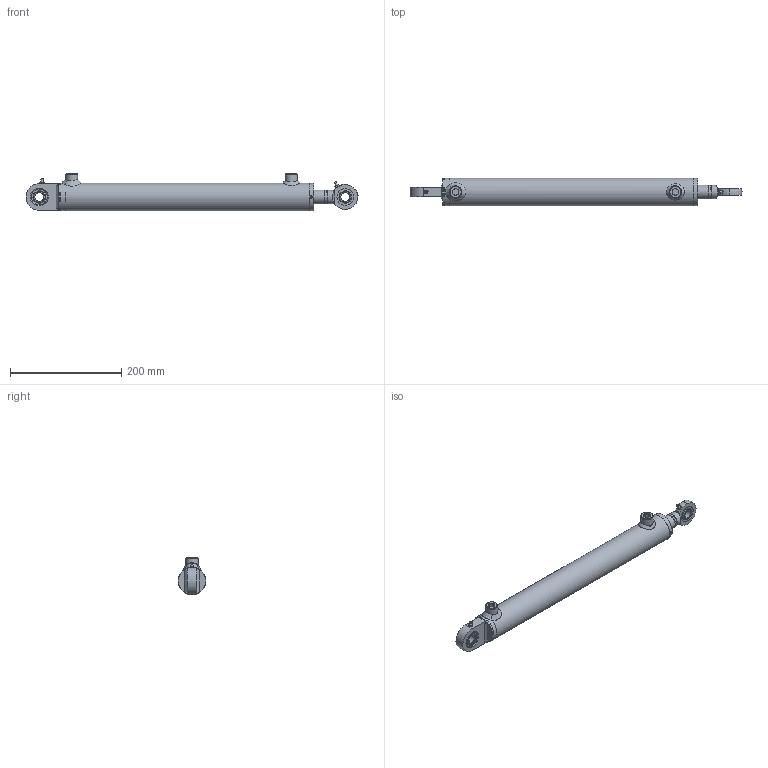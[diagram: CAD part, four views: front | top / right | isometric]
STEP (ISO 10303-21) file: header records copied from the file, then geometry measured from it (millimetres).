
FILE_DESCRIPTION( ( 'Unknown' ), '1' );
FILE_NAME( 'E:/LIBRERIA_3d/CILINDRI/HMB/HMB1250350.stp', 'Unknown', ( 'Unknown' ), ( 'Unknown' ), 'PSStep 17.0.49', 'Unknown', ' ' );
FILE_SCHEMA( ( 'AUTOMOTIVE_DESIGN { 1 0 10303 214 1 1 1 1 }' ) );
Length unit declared in the file: millimetre
Products named in the file (37): STL1500350-oa9; Saldatura d'angolo 1-oa7; FTM1500350-oa8; CBSC220400; CSTSF016N0-oa2; CSTS016N_CORPO-oa0; CSAI002030; CSAI002030-oa1; CSTSF016C0; tsc16c_corpo; AN00006001; CT00040015; CG05004025; CSTS016C00; CGE0160000; CSTS016N00; HM01250350; Saldatura con preparazione 1-oa5; Saldatura d'angolo 1-oa6; CF00040050; CDA0001415; CBS0400000; APG0400000; SBL2510350; Assem1; Saldatura d'angolo 3-oa3; Saldatura d'angolo 2-oa4
Assembly tree (28 placements, depth 4):
  Saldatura d'angolo 1-oa7
  Saldatura d'angolo 1-oa7
  Saldatura d'angolo 1-oa6
  Saldatura d'angolo 1-oa6
  Assem1
    CSTS016C00
      CGE0160000
      CSTSF016C0
        tsc16c_corpo
        AN00006001
    CSTS016N00
      CGE0160000
      AN00006001
      CSTSF016N0-oa2
        CSTS016N_CORPO-oa0
        CSAI002030
        CSAI002030-oa1
    HM01250350
      Saldatura con preparazione 1-oa5
      Saldatura con preparazione 1-oa5
      CF00040050
      CDA0001415
      CBS0400000
      APG0400000  x2
      SBL2510350
      CT00040015
        CT00040015
      CG05004025
        CG05004025
      STL1500350-oa9
        FTM1500350-oa8
        CBSC220400
Bounding box: 596.83 x 50 x 68 mm (x, y, z)
Volume: 683291 mm3; surface area: 238894.5 mm2
Topology: 30 solids, 30 shells, 325 faces, 678 edges, 426 vertices
Faces by surface type: plane 128, cylinder 81, cone 47, torus 42, bspline 18, sphere 9
Full cylindrical faces by diameter (mm): 2 x4, 2.4 x1, 3 x1, 3.25 x1, 4 x4, 4.25 x1, 5 x1, 6 x2, 7 x2, 11.445 x2, 12 x2, 13.1 x2, 14 x2, 15 x3, 16 x2, 19.5 x1, 20 x2, 22 x3, 24 x1, 24.95 x2, 25 x4, 27 x1, 28 x1, 30 x9, 33 x1, 33.6 x1, 35 x1, 35.4 x2, 38.5 x2, 39.9 x1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
Entity records: 12754 total; most frequent: CARTESIAN_POINT 4531, DIRECTION 1240, ORIENTED_EDGE 804, AXIS2_PLACEMENT_3D 560, EDGE_LOOP 525, FACE_OUTER_BOUND 420, EDGE_CURVE 402, VERTEX_POINT 343
